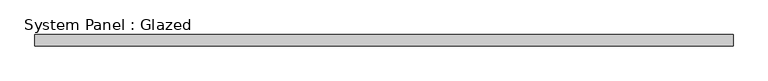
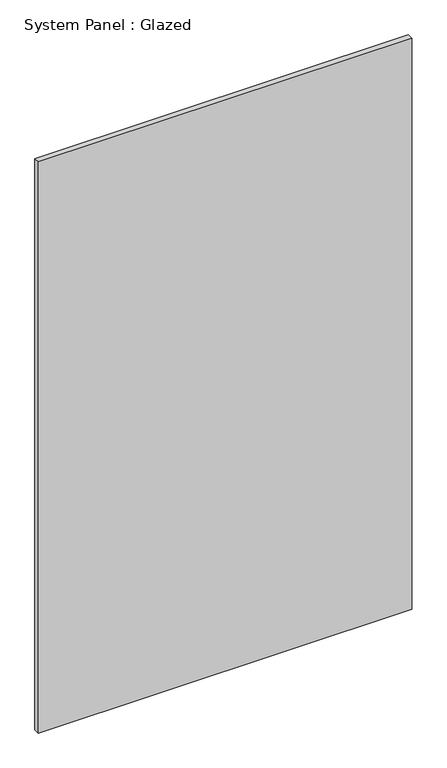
"""IFC4 building model written with IfcOpenShell, lengths in millimetres: plate geometry, System Panel : Glazed."""

from ifc_helpers import new_model, si_unit, origin, origin_with_axes, place, context, project, spatial, polyline, outline, extrude, source, transform, mapped, element, save


def system_panel_glazed_52effc56(model_context):
    return source(origin(), model_context, "Body", "SweptSolid", [
        extrude(outline(polyline([(796.9250048, 19.05), (-796.9250048, 19.05), (-796.9250048, 44.45), (796.9250048, 44.45), (796.9250048, 19.05)])), origin_with_axes(), (0.0, 0.0, 1.0), 2578.1),
    ])


if __name__ == "__main__":
    model = new_model("IFC4")
    model_context = context("Model", 3, world=origin())
    ifc_project = project(units=[si_unit("LENGTHUNIT", "METRE", prefix="MILLI")], contexts=[model_context])
    site = spatial("IfcSite", under=ifc_project)
    building = spatial("IfcBuilding", under=site)
    placement = place(None, origin())
    system_panel_glazed_shape = system_panel_glazed_52effc56(model_context)
    element("IfcPlate", 1, ObjectType="System Panel : Glazed", at=placement, inside=building, context=model_context, shape_type="MappedRepresentation", body=[
        mapped(system_panel_glazed_shape, transform((0.0, 0.0, 0.0), x_axis=(1.0, 0.0, 0.0), y_axis=(0.0, 1.0, 0.0), z_axis=(0.0, 0.0, 1.0))),
    ])
    save(model, "model.ifc")
